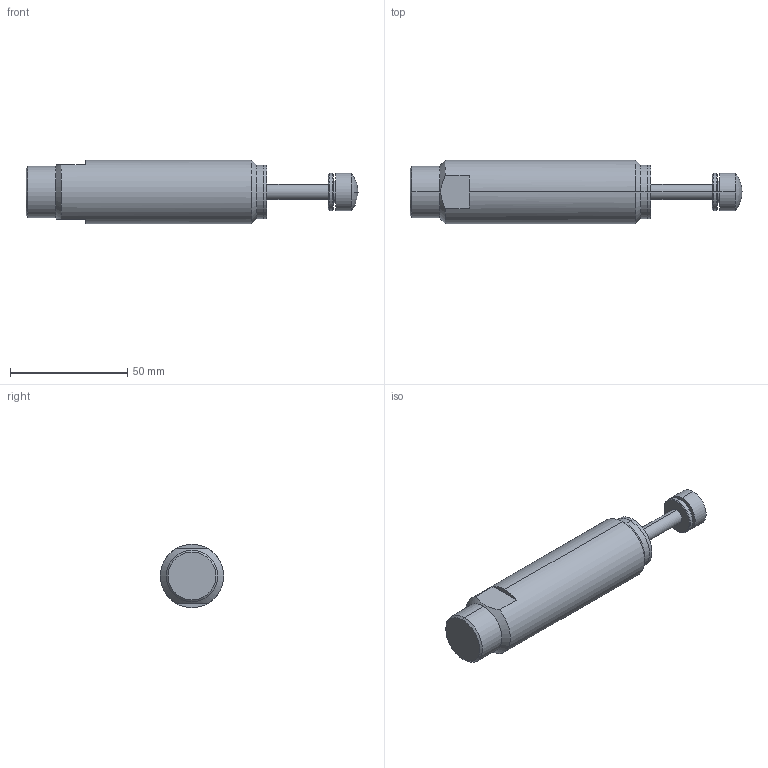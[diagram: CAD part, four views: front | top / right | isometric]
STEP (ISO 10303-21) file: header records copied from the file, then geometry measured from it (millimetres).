
FILE_DESCRIPTION (( 'STEP AP214' ), '1' );
FILE_NAME ('ES18373.STEP', '2019-12-05T08:10:50', ( 'user' ), ( 'Microsoft' ), 'SwSTEP 2.0', 'SolidWorks 2016', '' );
FILE_SCHEMA (( 'AUTOMOTIVE_DESIGN' ));
Length unit declared in the file: millimetre
Products named in the file (1): ES18373
Bounding box: 141.4 x 27 x 27 mm (x, y, z)
Volume: 57624.6 mm3; surface area: 14074.5 mm2
Topology: 9 solids, 9 shells, 55 faces, 97 edges, 60 vertices
Faces by surface type: plane 25, cylinder 16, cone 10, torus 2, sphere 2
Entity records: 1470 total; most frequent: DIRECTION 258, CARTESIAN_POINT 253, ORIENTED_EDGE 194, AXIS2_PLACEMENT_3D 109, EDGE_CURVE 97, VERTEX_POINT 60, EDGE_LOOP 55, ADVANCED_FACE 55
